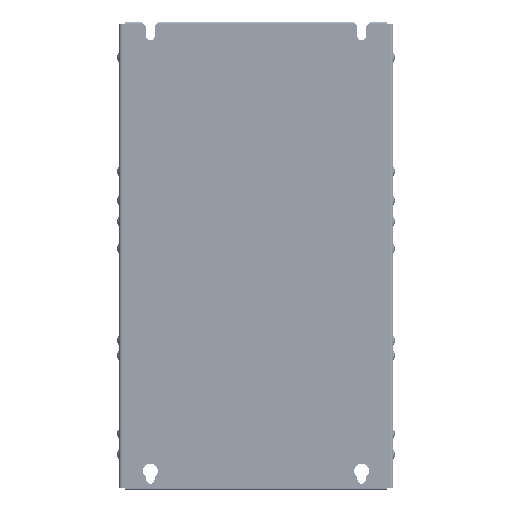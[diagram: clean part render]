
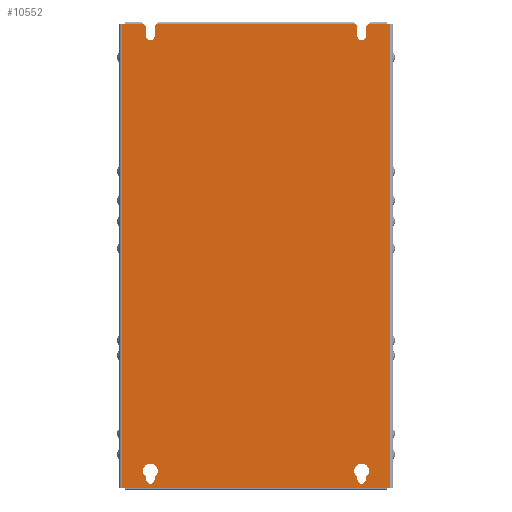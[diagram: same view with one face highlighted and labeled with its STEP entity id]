
A CAD part, left-side view. The second image highlights one B-rep face of the part: STEP entity #10552.
In plain terms, the highlighted planar face has unit normal (-1, 0, 0).
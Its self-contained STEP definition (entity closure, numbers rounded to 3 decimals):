
#22=CARTESIAN_POINT('',(-90.,75.,-261.58));
#23=DIRECTION('',(1.,0.,0.));
#24=DIRECTION('',(0.,-1.,0.));
#25=AXIS2_PLACEMENT_3D('',#22,#23,#24);
#31=DIRECTION('',(0.,0.,1.));
#32=VECTOR('',#31,1.692);
#33=CARTESIAN_POINT('',(-90.,72.,-261.58));
#34=LINE('',#33,#32);
#38=CARTESIAN_POINT('',(-90.,75.,-255.58));
#39=DIRECTION('',(1.,0.,0.));
#40=DIRECTION('',(0.,0.571,-0.821));
#41=AXIS2_PLACEMENT_3D('',#38,#39,#40);
#46=DIRECTION('',(0.,0.,-1.));
#47=VECTOR('',#46,1.692);
#48=CARTESIAN_POINT('',(-90.,78.,-259.888));
#49=LINE('',#48,#47);
#53=DIRECTION('',(0.,0.,1.));
#54=VECTOR('',#53,1.692);
#55=CARTESIAN_POINT('',(-90.,-78.,-261.58));
#56=LINE('',#55,#54);
#60=CARTESIAN_POINT('',(-90.,-75.,-255.58));
#61=DIRECTION('',(1.,0.,0.));
#62=DIRECTION('',(0.,0.571,-0.821));
#63=AXIS2_PLACEMENT_3D('',#60,#61,#62);
#68=DIRECTION('',(0.,0.,-1.));
#69=VECTOR('',#68,1.692);
#70=CARTESIAN_POINT('',(-90.,-72.,-259.888));
#71=LINE('',#70,#69);
#75=CARTESIAN_POINT('',(-90.,-75.,-261.58));
#76=DIRECTION('',(1.,0.,0.));
#77=DIRECTION('',(0.,-1.,0.));
#78=AXIS2_PLACEMENT_3D('',#75,#76,#77);
#83=DIRECTION('',(0.,0.707,-0.707));
#84=VECTOR('',#83,2.546);
#85=CARTESIAN_POINT('',(-90.,-79.8,62.12));
#86=LINE('',#85,#84);
#90=DIRECTION('',(0.,-1.,0.));
#91=VECTOR('',#90,2.);
#92=CARTESIAN_POINT('',(-90.,-93.1,62.12));
#93=LINE('',#92,#91);
#97=DIRECTION('',(0.,1.,0.));
#98=VECTOR('',#97,2.);
#99=CARTESIAN_POINT('',(-90.,-95.1,-267.88));
#100=LINE('',#99,#98);
#104=DIRECTION('',(0.,1.,0.));
#105=VECTOR('',#104,2.);
#106=CARTESIAN_POINT('',(-90.,93.1,-267.88));
#107=LINE('',#106,#105);
#111=DIRECTION('',(0.,-1.,0.));
#112=VECTOR('',#111,2.);
#113=CARTESIAN_POINT('',(-90.,95.1,62.12));
#114=LINE('',#113,#112);
#118=DIRECTION('',(0.,-0.707,-0.707));
#119=VECTOR('',#118,2.546);
#120=CARTESIAN_POINT('',(-90.,79.8,62.12));
#121=LINE('',#120,#119);
#125=DIRECTION('',(0.,0.,-1.));
#126=VECTOR('',#125,6.9);
#127=CARTESIAN_POINT('',(-90.,78.,60.32));
#128=LINE('',#127,#126);
#132=CARTESIAN_POINT('',(-90.,75.,53.42));
#133=DIRECTION('',(1.,0.,0.));
#134=DIRECTION('',(0.,-1.,0.));
#135=AXIS2_PLACEMENT_3D('',#132,#133,#134);
#140=DIRECTION('',(0.,0.,-1.));
#141=VECTOR('',#140,6.9);
#142=CARTESIAN_POINT('',(-90.,72.,60.32));
#143=LINE('',#142,#141);
#147=DIRECTION('',(0.,0.707,-0.707));
#148=VECTOR('',#147,2.546);
#149=CARTESIAN_POINT('',(-90.,70.2,62.12));
#150=LINE('',#149,#148);
#154=DIRECTION('',(0.,-0.707,-0.707));
#155=VECTOR('',#154,2.546);
#156=CARTESIAN_POINT('',(-90.,-70.2,62.12));
#157=LINE('',#156,#155);
#161=DIRECTION('',(0.,0.,-1.));
#162=VECTOR('',#161,6.9);
#163=CARTESIAN_POINT('',(-90.,-72.,60.32));
#164=LINE('',#163,#162);
#168=CARTESIAN_POINT('',(-90.,-75.,53.42));
#169=DIRECTION('',(1.,0.,0.));
#170=DIRECTION('',(0.,-1.,0.));
#171=AXIS2_PLACEMENT_3D('',#168,#169,#170);
#176=DIRECTION('',(0.,0.,-1.));
#177=VECTOR('',#176,6.9);
#178=CARTESIAN_POINT('',(-90.,-78.,60.32));
#179=LINE('',#178,#177);
#460=DIRECTION('',(0.,1.,0.));
#461=VECTOR('',#460,13.3);
#462=CARTESIAN_POINT('',(-90.,-93.1,62.12));
#463=LINE('',#462,#461);
#478=DIRECTION('',(0.,1.,0.));
#479=VECTOR('',#478,140.4);
#480=CARTESIAN_POINT('',(-90.,-70.2,62.12));
#481=LINE('',#480,#479);
#507=DIRECTION('',(0.,1.,0.));
#508=VECTOR('',#507,13.3);
#509=CARTESIAN_POINT('',(-90.,79.8,62.12));
#510=LINE('',#509,#508);
#807=DIRECTION('',(0.,0.,-1.));
#808=VECTOR('',#807,330.);
#809=CARTESIAN_POINT('',(-90.,-95.1,62.12));
#810=LINE('',#809,#808);
#4729=DIRECTION('',(0.,0.,1.));
#4730=VECTOR('',#4729,330.);
#4731=CARTESIAN_POINT('',(-90.,95.1,-267.88));
#4732=LINE('',#4731,#4730);
#8598=DIRECTION('',(0.,-1.,0.));
#8599=VECTOR('',#8598,186.2);
#8600=CARTESIAN_POINT('',(-90.,93.1,-267.88));
#8601=LINE('',#8600,#8599);
#8929=CARTESIAN_POINT('',(-90.,-95.1,-267.88));
#8930=VERTEX_POINT('',#8929);
#8931=CARTESIAN_POINT('',(-90.,-95.1,62.12));
#8932=VERTEX_POINT('',#8931);
#8945=CARTESIAN_POINT('',(-90.,95.1,62.12));
#8946=VERTEX_POINT('',#8945);
#8947=CARTESIAN_POINT('',(-90.,95.1,-267.88));
#8948=VERTEX_POINT('',#8947);
#8989=CARTESIAN_POINT('',(-90.,93.1,-267.88));
#8990=CARTESIAN_POINT('',(-90.,-93.1,-267.88));
#8991=VERTEX_POINT('',#8989);
#8992=VERTEX_POINT('',#8990);
#8993=CARTESIAN_POINT('',(-90.,72.,-261.58));
#8994=CARTESIAN_POINT('',(-90.,78.,-261.58));
#8995=VERTEX_POINT('',#8993);
#8996=VERTEX_POINT('',#8994);
#8997=CARTESIAN_POINT('',(-90.,72.,-259.888));
#8998=VERTEX_POINT('',#8997);
#8999=CARTESIAN_POINT('',(-90.,78.,-259.888));
#9000=VERTEX_POINT('',#8999);
#9001=CARTESIAN_POINT('',(-90.,-78.,-261.58));
#9002=CARTESIAN_POINT('',(-90.,-78.,-259.888));
#9003=VERTEX_POINT('',#9001);
#9004=VERTEX_POINT('',#9002);
#9005=CARTESIAN_POINT('',(-90.,-72.,-259.888));
#9006=VERTEX_POINT('',#9005);
#9007=CARTESIAN_POINT('',(-90.,-72.,-261.58));
#9008=VERTEX_POINT('',#9007);
#9009=CARTESIAN_POINT('',(-90.,72.,53.42));
#9010=CARTESIAN_POINT('',(-90.,78.,53.42));
#9011=VERTEX_POINT('',#9009);
#9012=VERTEX_POINT('',#9010);
#9013=CARTESIAN_POINT('',(-90.,-78.,53.42));
#9014=CARTESIAN_POINT('',(-90.,-72.,53.42));
#9015=VERTEX_POINT('',#9013);
#9016=VERTEX_POINT('',#9014);
#10409=CARTESIAN_POINT('',(-90.,-93.1,62.12));
#10410=VERTEX_POINT('',#10409);
#10411=CARTESIAN_POINT('',(-90.,93.1,62.12));
#10412=VERTEX_POINT('',#10411);
#10429=CARTESIAN_POINT('',(-90.,-79.8,62.12));
#10430=CARTESIAN_POINT('',(-90.,-78.,60.32));
#10431=VERTEX_POINT('',#10429);
#10432=VERTEX_POINT('',#10430);
#10433=CARTESIAN_POINT('',(-90.,-70.2,62.12));
#10434=CARTESIAN_POINT('',(-90.,-72.,60.32));
#10435=VERTEX_POINT('',#10433);
#10436=VERTEX_POINT('',#10434);
#10437=CARTESIAN_POINT('',(-90.,70.2,62.12));
#10438=CARTESIAN_POINT('',(-90.,72.,60.32));
#10439=VERTEX_POINT('',#10437);
#10440=VERTEX_POINT('',#10438);
#10441=CARTESIAN_POINT('',(-90.,79.8,62.12));
#10442=CARTESIAN_POINT('',(-90.,78.,60.32));
#10443=VERTEX_POINT('',#10441);
#10444=VERTEX_POINT('',#10442);
#10485=CARTESIAN_POINT('',(-90.,0.,0.));
#10486=DIRECTION('',(1.,0.,0.));
#10487=DIRECTION('',(0.,1.,0.));
#10488=AXIS2_PLACEMENT_3D('',#10485,#10486,#10487);
#10489=PLANE('',#10488);
#10491=ORIENTED_EDGE('',*,*,#10490,.F.);
#10493=ORIENTED_EDGE('',*,*,#10492,.F.);
#10495=ORIENTED_EDGE('',*,*,#10494,.T.);
#10497=ORIENTED_EDGE('',*,*,#10496,.T.);
#10499=ORIENTED_EDGE('',*,*,#10498,.T.);
#10501=ORIENTED_EDGE('',*,*,#10500,.F.);
#10503=ORIENTED_EDGE('',*,*,#10502,.T.);
#10505=ORIENTED_EDGE('',*,*,#10504,.T.);
#10507=ORIENTED_EDGE('',*,*,#10506,.T.);
#10509=ORIENTED_EDGE('',*,*,#10508,.F.);
#10511=ORIENTED_EDGE('',*,*,#10510,.T.);
#10513=ORIENTED_EDGE('',*,*,#10512,.T.);
#10515=ORIENTED_EDGE('',*,*,#10514,.F.);
#10517=ORIENTED_EDGE('',*,*,#10516,.F.);
#10519=ORIENTED_EDGE('',*,*,#10518,.F.);
#10521=ORIENTED_EDGE('',*,*,#10520,.F.);
#10523=ORIENTED_EDGE('',*,*,#10522,.T.);
#10525=ORIENTED_EDGE('',*,*,#10524,.T.);
#10527=ORIENTED_EDGE('',*,*,#10526,.F.);
#10529=ORIENTED_EDGE('',*,*,#10528,.F.);
#10530=EDGE_LOOP('',(#10491,#10493,#10495,#10497,#10499,#10501,#10503,#10505,
#10507,#10509,#10511,#10513,#10515,#10517,#10519,#10521,#10523,#10525,#10527,
#10529));
#10531=FACE_OUTER_BOUND('',#10530,.F.);
#10533=ORIENTED_EDGE('',*,*,#10532,.T.);
#10535=ORIENTED_EDGE('',*,*,#10534,.F.);
#10537=ORIENTED_EDGE('',*,*,#10536,.T.);
#10539=ORIENTED_EDGE('',*,*,#10538,.F.);
#10540=EDGE_LOOP('',(#10533,#10535,#10537,#10539));
#10541=FACE_BOUND('',#10540,.F.);
#10543=ORIENTED_EDGE('',*,*,#10542,.F.);
#10545=ORIENTED_EDGE('',*,*,#10544,.T.);
#10547=ORIENTED_EDGE('',*,*,#10546,.F.);
#10549=ORIENTED_EDGE('',*,*,#10548,.T.);
#10550=EDGE_LOOP('',(#10543,#10545,#10547,#10549));
#10551=FACE_BOUND('',#10550,.F.);
#10552=ADVANCED_FACE('',(#10531,#10541,#10551),#10489,.F.);
#26=CIRCLE('',#25,3.);
#42=CIRCLE('',#41,5.25);
#64=CIRCLE('',#63,5.25);
#79=CIRCLE('',#78,3.);
#136=CIRCLE('',#135,3.);
#172=CIRCLE('',#171,3.);
#10490=EDGE_CURVE('',#10431,#10432,#86,.T.);
#10492=EDGE_CURVE('',#10410,#10431,#463,.T.);
#10494=EDGE_CURVE('',#10410,#8932,#93,.T.);
#10496=EDGE_CURVE('',#8932,#8930,#810,.T.);
#10498=EDGE_CURVE('',#8930,#8992,#100,.T.);
#10500=EDGE_CURVE('',#8991,#8992,#8601,.T.);
#10502=EDGE_CURVE('',#8991,#8948,#107,.T.);
#10504=EDGE_CURVE('',#8948,#8946,#4732,.T.);
#10506=EDGE_CURVE('',#8946,#10412,#114,.T.);
#10508=EDGE_CURVE('',#10443,#10412,#510,.T.);
#10510=EDGE_CURVE('',#10443,#10444,#121,.T.);
#10512=EDGE_CURVE('',#10444,#9012,#128,.T.);
#10514=EDGE_CURVE('',#9011,#9012,#136,.T.);
#10516=EDGE_CURVE('',#10440,#9011,#143,.T.);
#10518=EDGE_CURVE('',#10439,#10440,#150,.T.);
#10520=EDGE_CURVE('',#10435,#10439,#481,.T.);
#10522=EDGE_CURVE('',#10435,#10436,#157,.T.);
#10524=EDGE_CURVE('',#10436,#9016,#164,.T.);
#10526=EDGE_CURVE('',#9015,#9016,#172,.T.);
#10528=EDGE_CURVE('',#10432,#9015,#179,.T.);
#10532=EDGE_CURVE('',#9003,#9004,#56,.T.);
#10534=EDGE_CURVE('',#9006,#9004,#64,.T.);
#10536=EDGE_CURVE('',#9006,#9008,#71,.T.);
#10538=EDGE_CURVE('',#9003,#9008,#79,.T.);
#10542=EDGE_CURVE('',#8995,#8996,#26,.T.);
#10544=EDGE_CURVE('',#8995,#8998,#34,.T.);
#10546=EDGE_CURVE('',#9000,#8998,#42,.T.);
#10548=EDGE_CURVE('',#9000,#8996,#49,.T.);
